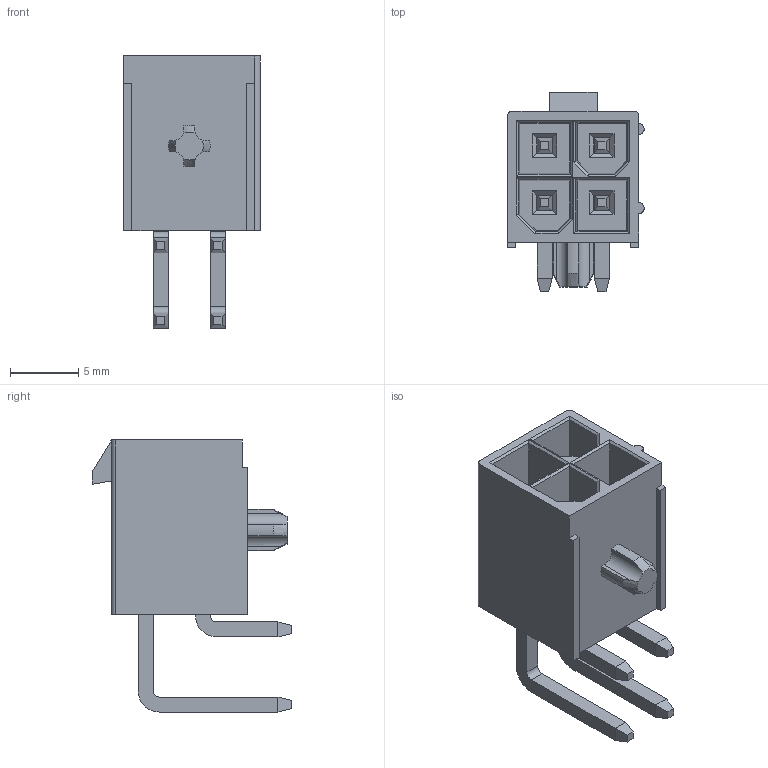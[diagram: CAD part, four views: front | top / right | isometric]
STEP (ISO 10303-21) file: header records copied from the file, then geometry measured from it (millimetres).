
FILE_DESCRIPTION((''),'2;1');
FILE_NAME('S-57955-004XX-001','2020-01-08T',('d33379'),(''),'CREO PARAMETRIC BY PTC INC, 2014500','CREO PARAMETRIC BY PTC INC, 2014500','');
FILE_SCHEMA(('CONFIG_CONTROL_DESIGN'));
Length unit declared in the file: millimetre
Products named in the file (1): S-57955-004XX-001
Bounding box: 10 x 14.6 x 19.93 mm (x, y, z)
Volume: 736.1 mm3; surface area: 1689.4 mm2
Topology: 1 solids, 1 shells, 277 faces, 715 edges, 466 vertices
Faces by surface type: plane 241, cylinder 32, cone 4
Entity records: 8368 total; most frequent: CARTESIAN_POINT 1524, ORIENTED_EDGE 1410, DIRECTION 1345, EDGE_CURVE 705, VECTOR 609, LINE 609, VERTEX_POINT 456, AXIS2_PLACEMENT_3D 368
